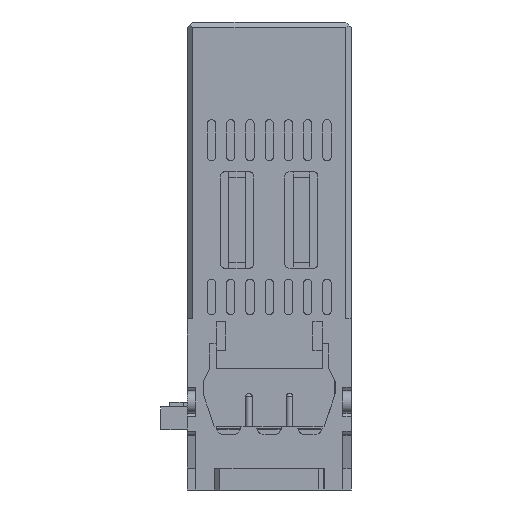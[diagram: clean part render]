
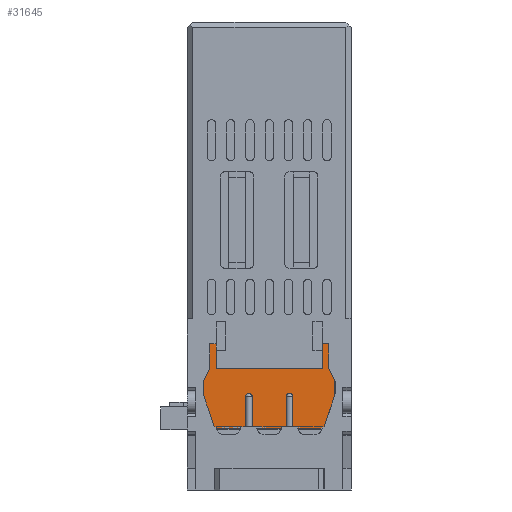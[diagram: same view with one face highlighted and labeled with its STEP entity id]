
A CAD part, front view. The second image highlights one B-rep face of the part: STEP entity #31645.
In plain terms, the highlighted planar face has unit normal (0, -1, 0).
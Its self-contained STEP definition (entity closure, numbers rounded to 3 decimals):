
#618 = EDGE_CURVE ( 'NONE', #50603, #7265, #39918, .T. ) ;
#1541 = DIRECTION ( 'NONE',  ( 0., 0., -1. ) ) ;
#4931 = DIRECTION ( 'NONE',  ( 1., 0., 0. ) ) ;
#7265 = VERTEX_POINT ( 'NONE', #42580 ) ;
#9837 = CARTESIAN_POINT ( 'NONE',  ( 2.7, 2., -57.993 ) ) ;
#12330 = DIRECTION ( 'NONE',  ( 0., 0., -1. ) ) ;
#13195 = EDGE_CURVE ( 'NONE', #23250, #7265, #47556, .T. ) ;
#13913 = CARTESIAN_POINT ( 'NONE',  ( -31.628, 2., -57.993 ) ) ;
#16398 = CARTESIAN_POINT ( 'NONE',  ( 26.7, 2., -57.993 ) ) ;
#16965 = CARTESIAN_POINT ( 'NONE',  ( 26.7, 2., -57.993 ) ) ;
#17689 = ORIENTED_EDGE ( 'NONE', *, *, #43784, .T. ) ;
#17887 = CARTESIAN_POINT ( 'NONE',  ( 2.7, 2., -57.993 ) ) ;
#21039 = VECTOR ( 'NONE', #4931, 1000. ) ;
#23250 = VERTEX_POINT ( 'NONE', #60756 ) ;
#23632 = EDGE_LOOP ( 'NONE', ( #60379, #17689, #28274, #59437 ) ) ;
#27745 = DIRECTION ( 'NONE',  ( 0., -1., 0. ) ) ;
#28274 = ORIENTED_EDGE ( 'NONE', *, *, #13195, .T. ) ;
#30402 = VERTEX_POINT ( 'NONE', #9837 ) ;
#31645 = ADVANCED_FACE ( 'NONE', ( #37042 ), #37332, .T. ) ;
#32950 = VECTOR ( 'NONE', #57766, 1000. ) ;
#36387 = VECTOR ( 'NONE', #1541, 1000. ) ;
#37042 = FACE_OUTER_BOUND ( 'NONE', #23632, .T. ) ;
#37332 = PLANE ( 'NONE',  #50082 ) ;
#37433 = LINE ( 'NONE', #13913, #21039 ) ;
#39918 = LINE ( 'NONE', #16398, #36387 ) ;
#40486 = LINE ( 'NONE', #17887, #47514 ) ;
#42580 = CARTESIAN_POINT ( 'NONE',  ( 26.7, 2., -73.843 ) ) ;
#43784 = EDGE_CURVE ( 'NONE', #30402, #23250, #40486, .T. ) ;
#46015 = CARTESIAN_POINT ( 'NONE',  ( -31.628, 2., -57.993 ) ) ;
#46234 = EDGE_CURVE ( 'NONE', #30402, #50603, #37433, .T. ) ;
#47514 = VECTOR ( 'NONE', #12330, 1000. ) ;
#47556 = LINE ( 'NONE', #48159, #32950 ) ;
#48159 = CARTESIAN_POINT ( 'NONE',  ( -31.628, 2., -73.843 ) ) ;
#50082 = AXIS2_PLACEMENT_3D ( 'NONE', #46015, #27745, #55928 ) ;
#50603 = VERTEX_POINT ( 'NONE', #16965 ) ;
#55928 = DIRECTION ( 'NONE',  ( 0., 0., -1. ) ) ;
#57766 = DIRECTION ( 'NONE',  ( 1., 0., 0. ) ) ;
#59437 = ORIENTED_EDGE ( 'NONE', *, *, #618, .F. ) ;
#60379 = ORIENTED_EDGE ( 'NONE', *, *, #46234, .F. ) ;
#60756 = CARTESIAN_POINT ( 'NONE',  ( 2.7, 2., -73.843 ) ) ;
